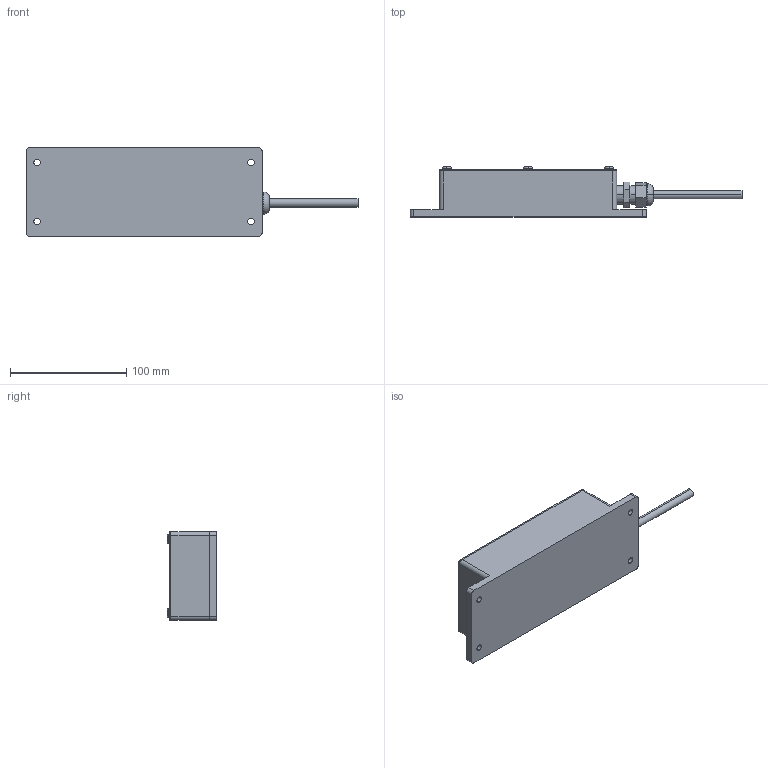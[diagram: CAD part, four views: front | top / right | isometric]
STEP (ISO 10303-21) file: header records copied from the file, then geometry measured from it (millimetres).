
FILE_DESCRIPTION (( 'STEP AP214' ), '1' );
FILE_NAME ('ASG-AC2500-BT4.STEP', '2019-01-21T13:42:50', ( '' ), ( '' ), 'SwSTEP 2.0', 'SolidWorks 2018', '' );
FILE_SCHEMA (( 'AUTOMOTIVE_DESIGN' ));
Length unit declared in the file: inch
Products named in the file (1): ASG-AC2500-BT4
Bounding box: 285.75 x 42.99 x 76.2 mm (x, y, z)
Volume: 504897.4 mm3; surface area: 80744.4 mm2
Topology: 36 solids, 36 shells, 1196 faces, 3225 edges, 2158 vertices
Faces by surface type: plane 759, bspline 355, cylinder 68, torus 14
Entity records: 60879 total; most frequent: CARTESIAN_POINT 18113, ORIENTED_EDGE 6450, DIRECTION 4325, EDGE_CURVE 3225, LINE 2301, VECTOR 2301, VERTEX_POINT 2158, EDGE_LOOP 1307
